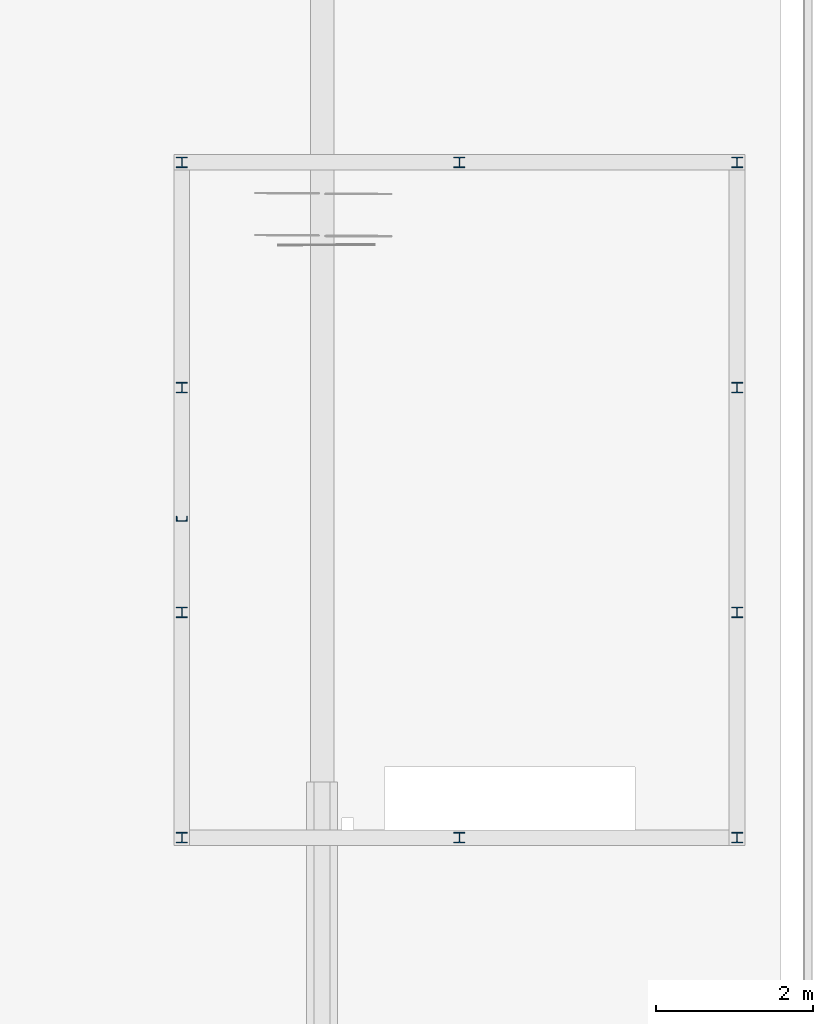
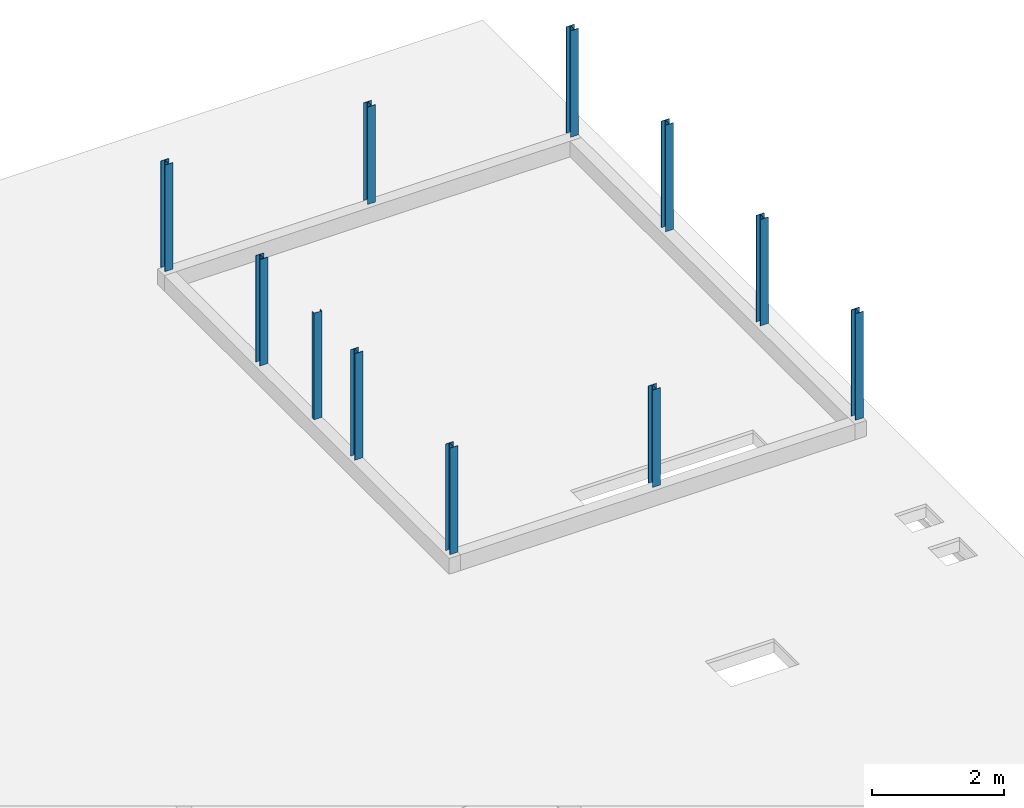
# One storey, part 1 of 9: 11 columns.
"""IFC2X3 building model written with IfcOpenShell, lengths in millimetres."""

from ifc_helpers import new_model, entity, si_unit, converted_unit, derived_unit, direction, frame, frame_2d, origin, place, context, subcontext, project, spatial, polyline, circle_curve, parameter, trimmed, segment, composite_curve, outline, extrude, source, transform, mapped, material, material_list, type_object, type_shapes, element, save


model = new_model("IFC2X3")

# Units and contexts
model_context = context("Model", 3, precision=0.01, world=origin(), true_north=direction((6.12303176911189e-17, 1.0)))
body_context = subcontext(model_context, "Body", "Model", "MODEL_VIEW")
ifc_project = project(units=[si_unit("LENGTHUNIT", "METRE", prefix="MILLI"), si_unit("AREAUNIT", "SQUARE_METRE"), si_unit("VOLUMEUNIT", "CUBIC_METRE"), converted_unit("PLANEANGLEUNIT", "DEGREE", entity("IfcRatioMeasure", 0.0174532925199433), si_unit("PLANEANGLEUNIT", "RADIAN"), dimensions=[0, 0, 0, 0, 0, 0, 0]), si_unit("MASSUNIT", "GRAM", prefix="KILO"), derived_unit("MASSDENSITYUNIT", [(si_unit("MASSUNIT", "GRAM", prefix="KILO"), 1), (si_unit("LENGTHUNIT", "METRE"), -3)]), derived_unit("MOMENTOFINERTIAUNIT", [(si_unit("LENGTHUNIT", "METRE"), 4)]), si_unit("TIMEUNIT", "SECOND"), si_unit("FREQUENCYUNIT", "HERTZ"), si_unit("THERMODYNAMICTEMPERATUREUNIT", "DEGREE_CELSIUS"), derived_unit("THERMALTRANSMITTANCEUNIT", [(si_unit("MASSUNIT", "GRAM", prefix="KILO"), 1), (si_unit("THERMODYNAMICTEMPERATUREUNIT", "KELVIN"), -1), (si_unit("TIMEUNIT", "SECOND"), -3)]), derived_unit("VOLUMETRICFLOWRATEUNIT", [(si_unit("LENGTHUNIT", "METRE"), 3), (si_unit("TIMEUNIT", "SECOND"), -1)]), si_unit("ELECTRICCURRENTUNIT", "AMPERE"), si_unit("ELECTRICVOLTAGEUNIT", "VOLT"), si_unit("POWERUNIT", "WATT"), si_unit("FORCEUNIT", "NEWTON", prefix="KILO"), si_unit("ILLUMINANCEUNIT", "LUX"), si_unit("LUMINOUSFLUXUNIT", "LUMEN"), si_unit("LUMINOUSINTENSITYUNIT", "CANDELA"), derived_unit("USERDEFINED", [(si_unit("MASSUNIT", "GRAM", prefix="KILO"), -1), (si_unit("LENGTHUNIT", "METRE"), -2), (si_unit("TIMEUNIT", "SECOND"), 3), (si_unit("LUMINOUSFLUXUNIT", "LUMEN"), 1)]), derived_unit("LINEARVELOCITYUNIT", [(si_unit("LENGTHUNIT", "METRE"), 1), (si_unit("TIMEUNIT", "SECOND"), -1)]), si_unit("PRESSUREUNIT", "PASCAL"), derived_unit("USERDEFINED", [(si_unit("LENGTHUNIT", "METRE"), -2), (si_unit("MASSUNIT", "GRAM", prefix="KILO"), 1), (si_unit("TIMEUNIT", "SECOND"), -2)]), derived_unit("LINEARFORCEUNIT", [(si_unit("MASSUNIT", "GRAM", prefix="KILO"), 1), (si_unit("LENGTHUNIT", "METRE"), 1), (si_unit("TIMEUNIT", "SECOND"), -2), (si_unit("LENGTHUNIT", "METRE"), -1)]), derived_unit("PLANARFORCEUNIT", [(si_unit("MASSUNIT", "GRAM", prefix="KILO"), 1), (si_unit("LENGTHUNIT", "METRE"), 1), (si_unit("TIMEUNIT", "SECOND"), -2), (si_unit("LENGTHUNIT", "METRE"), -2)])], contexts=[model_context])

# Site, building, storey
site_placement = place(None, origin())
site = spatial("IfcSite", under=ifc_project, at=site_placement, Name="Default", CompositionType="ELEMENT")
building_placement = place(site_placement, origin())
building = spatial("IfcBuilding", under=site, at=building_placement, CompositionType="ELEMENT")
storey_placement = place(building_placement, frame((0.0, 0.0, 7000.0)))
storey = spatial("IfcBuildingStorey", under=building, at=storey_placement, Name="02 tweede verdieping", CompositionType="ELEMENT", Elevation=7000.00000000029)

# Columns
ifc_material_1 = material(Name="h2_staal")
column_type_1 = type_object("IfcColumnType", Name="BERSnl_28_SCO_TLB_kolom hea_gen_ISR:kolom gen hea140", PredefinedType="COLUMN", material=ifc_material_1)
shared_shape_1 = source(origin(), body_context, "Body", "SweptSolid", [
    extrude(outline(composite_curve([segment(polyline([(58.0, -70.0), (66.4999999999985, -70.0)]), True, "CONTINUOUS"), segment(polyline([(66.4999999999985, -70.0), (66.4999999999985, 70.0)]), True, "CONTINUOUS"), segment(polyline([(66.4999999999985, 70.0), (58.0, 70.0)]), True, "CONTINUOUS"), segment(polyline([(58.0, 70.0), (58.0, 14.7500000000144)]), True, "CONTINUOUS"), segment(trimmed(circle_curve(frame_2d((46.0, 14.7500000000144), x_axis=(1.0, 0.0)), 12.0), [parameter(270.0)], [parameter(0.0)], True, "PARAMETER"), False, "CONTINUOUS"), segment(polyline([(46.0, 2.75000000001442), (-46.0, 2.75000000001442)]), True, "CONTINUOUS"), segment(trimmed(circle_curve(frame_2d((-46.0, 14.7500000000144), x_axis=(0.0, -1.0)), 12.0), [parameter(270.0)], [parameter(0.0)], True, "PARAMETER"), False, "CONTINUOUS"), segment(polyline([(-58.0, 14.7500000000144), (-58.0, 70.0)]), True, "CONTINUOUS"), segment(polyline([(-58.0, 70.0), (-66.5000000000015, 70.0)]), True, "CONTINUOUS"), segment(polyline([(-66.5000000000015, 70.0), (-66.5000000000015, -70.0)]), True, "CONTINUOUS"), segment(polyline([(-66.5000000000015, -70.0), (-58.0, -70.0)]), True, "CONTINUOUS"), segment(polyline([(-58.0, -70.0), (-58.0, -14.7500000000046)]), True, "CONTINUOUS"), segment(trimmed(circle_curve(frame_2d((-46.0, -14.7500000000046), x_axis=(-1.0, 0.0)), 12.0), [parameter(269.999999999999)], [parameter(0.0)], True, "PARAMETER"), False, "CONTINUOUS"), segment(polyline([(-46.0, -2.75000000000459), (46.0, -2.75000000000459)]), True, "CONTINUOUS"), segment(trimmed(circle_curve(frame_2d((46.0, -14.7500000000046), x_axis=(0.0, 1.0)), 12.0), [parameter(269.999999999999)], [parameter(0.0)], True, "PARAMETER"), False, "CONTINUOUS"), segment(polyline([(58.0, -14.7500000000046), (58.0, -70.0)]), True, "CONTINUOUS")], self_intersect=False)), frame((0.0, 0.0, 8430.0), z_axis=(0.0, 0.0, 1.0), x_axis=(0.0, -1.0, 0.0)), (0.0, 0.0, 1.0), 1967.0),
])
type_shapes(column_type_1, [shared_shape_1])
for number, where, z_axis, x_axis, name in (
    (1, (34269.4270571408, 31806.2966282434, -7000.0), (0.0, 0.0, 1.0), (-1.0, 0.0, 0.0), "BERSnl_28_SCO_TLB_kolom hea_gen_ISR:kolom gen hea140"),
    (2, (27179.4270571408, 31806.2966282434, -7000.0), (0.0, 0.0, 1.0), (-1.0, 0.0, 0.0), "BERSnl_28_SCO_TLB_kolom hea_gen_ISR:kolom gen hea140"),
    (3, (27179.4270571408, 28929.2966282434, -7000.0), (0.0, 0.0, 1.0), (-1.0, 0.0, 0.0), "BERSnl_28_SCO_TLB_kolom hea_gen_ISR:kolom gen hea140"),
    (4, (27179.4270571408, 26058.2966282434, -7000.0), (0.0, 0.0, 1.0), (-1.0, 0.0, 0.0), "BERSnl_28_SCO_TLB_kolom hea_gen_ISR:kolom gen hea140"),
    (5, (27179.4270571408, 23181.2966282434, -7000.0), (0.0, 0.0, 1.0), (-1.0, 0.0, 0.0), "BERSnl_28_SCO_TLB_kolom hea_gen_ISR:kolom gen hea140"),
    (6, (34269.4270571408, 23181.2966282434, -7000.0), (0.0, 0.0, 1.0), (-1.0, 0.0, 0.0), "BERSnl_28_SCO_TLB_kolom hea_gen_ISR:kolom gen hea140"),
    (7, (34269.4270571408, 26058.2966282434, -7000.0), (0.0, 0.0, 1.0), (-1.0, 0.0, 0.0), "BERSnl_28_SCO_TLB_kolom hea_gen_ISR:kolom gen hea140"),
    (8, (34269.4270571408, 28929.2966282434, -7000.0), (0.0, 0.0, 1.0), (-1.0, 0.0, 0.0), "BERSnl_28_SCO_TLB_kolom hea_gen_ISR:kolom gen hea140"),
):
    element("IfcColumn", number, at=place(storey_placement, frame(where, z_axis=z_axis, x_axis=x_axis)), inside=storey, type_object=column_type_1, Name=name, ObjectType="BERSnl_28_SCO_TLB_kolom hea_gen_ISR:kolom gen hea140", context=body_context, shape_type="MappedRepresentation", body=[
        mapped(shared_shape_1, transform((0.0, 0.0, 0.0), scale=1.0)),
    ])
column_type_2 = type_object("IfcColumnType", Name="BERSnl_28_SCO_TLB_kolom hea_gen_ISR:kolom gen hea140", PredefinedType="COLUMN", material=ifc_material_1)
shared_shape_2 = source(origin(), body_context, "Body", "SweptSolid", [
    extrude(outline(composite_curve([segment(polyline([(58.0, -70.0), (66.4999999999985, -70.0)]), True, "CONTINUOUS"), segment(polyline([(66.4999999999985, -70.0), (66.4999999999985, 70.0)]), True, "CONTINUOUS"), segment(polyline([(66.4999999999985, 70.0), (58.0, 70.0)]), True, "CONTINUOUS"), segment(polyline([(58.0, 70.0), (58.0, 14.7500000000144)]), True, "CONTINUOUS"), segment(trimmed(circle_curve(frame_2d((46.0, 14.7500000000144), x_axis=(1.0, 0.0)), 12.0), [parameter(270.0)], [parameter(0.0)], True, "PARAMETER"), False, "CONTINUOUS"), segment(polyline([(46.0, 2.75000000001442), (-46.0, 2.75000000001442)]), True, "CONTINUOUS"), segment(trimmed(circle_curve(frame_2d((-46.0, 14.7500000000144), x_axis=(0.0, -1.0)), 12.0), [parameter(270.0)], [parameter(0.0)], True, "PARAMETER"), False, "CONTINUOUS"), segment(polyline([(-58.0, 14.7500000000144), (-58.0, 70.0)]), True, "CONTINUOUS"), segment(polyline([(-58.0, 70.0), (-66.5000000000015, 70.0)]), True, "CONTINUOUS"), segment(polyline([(-66.5000000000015, 70.0), (-66.5000000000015, -70.0)]), True, "CONTINUOUS"), segment(polyline([(-66.5000000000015, -70.0), (-58.0, -70.0)]), True, "CONTINUOUS"), segment(polyline([(-58.0, -70.0), (-58.0, -14.7500000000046)]), True, "CONTINUOUS"), segment(trimmed(circle_curve(frame_2d((-46.0, -14.7500000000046), x_axis=(-1.0, 0.0)), 12.0), [parameter(269.999999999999)], [parameter(0.0)], True, "PARAMETER"), False, "CONTINUOUS"), segment(polyline([(-46.0, -2.75000000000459), (46.0, -2.75000000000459)]), True, "CONTINUOUS"), segment(trimmed(circle_curve(frame_2d((46.0, -14.7500000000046), x_axis=(0.0, 1.0)), 12.0), [parameter(269.999999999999)], [parameter(0.0)], True, "PARAMETER"), False, "CONTINUOUS"), segment(polyline([(58.0, -14.7500000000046), (58.0, -70.0)]), True, "CONTINUOUS")], self_intersect=False)), frame((0.0, 0.0, 8430.0), z_axis=(0.0, 0.0, 1.0), x_axis=(0.0, -1.0, 0.0)), (0.0, 0.0, 1.0), 1800.0),
])
type_shapes(column_type_2, [shared_shape_2])
for number, where, z_axis, x_axis, name in (
    (9, (30723.9230974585, 31806.2966282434, -7000.0), (0.0, 0.0, 1.0), (-1.0, 0.0, 0.0), "BERSnl_28_SCO_TLB_kolom hea_gen_ISR:kolom gen hea140"),
    (10, (30724.4270571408, 23181.2966282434, -7000.0), (0.0, 0.0, 1.0), (-1.0, 0.0, 0.0), "BERSnl_28_SCO_TLB_kolom hea_gen_ISR:kolom gen hea140"),
):
    element("IfcColumn", number, at=place(storey_placement, frame(where, z_axis=z_axis, x_axis=x_axis)), inside=storey, type_object=column_type_2, Name=name, ObjectType="BERSnl_28_SCO_TLB_kolom hea_gen_ISR:kolom gen hea140", context=body_context, shape_type="MappedRepresentation", body=[
        mapped(shared_shape_2, transform((0.0, 0.0, 0.0), scale=1.0)),
    ])
ifc_material_2 = material(Name="<Unnamed>")
ifc_material_3 = material(Name="00_Staal_generiek")
ifc_material_list = material_list([ifc_material_2, ifc_material_3])
column_type_3 = type_object("IfcColumnType", Name="BERSnl_28_SCO_TLB_kolom unp_gen_ISR:kolom_gen_UNP140", PredefinedType="COLUMN", material=ifc_material_list)
shared_shape_3 = source(origin(), body_context, "Body", "SweptSolid", [
    extrude(outline(composite_curve([segment(polyline([(-26.8998758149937, -70.0), (33.1001241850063, -70.0)]), True, "CONTINUOUS"), segment(polyline([(33.1001241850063, -70.0), (33.1001241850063, 70.0)]), True, "CONTINUOUS"), segment(polyline([(33.1001241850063, 70.0), (-26.8998758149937, 70.0)]), True, "CONTINUOUS"), segment(polyline([(-26.8998758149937, 70.0), (-26.8998758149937, 66.7383127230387)]), True, "CONTINUOUS"), segment(trimmed(circle_curve(frame_2d((-21.8998758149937, 66.7383127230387), x_axis=(-1.0, 0.0)), 4.99999999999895), [parameter(0.0)], [parameter(85.4200000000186)], True, "PARAMETER"), True, "CONTINUOUS"), segment(polyline([(-22.2991307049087, 61.7542786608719), (16.8986339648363, 58.6142721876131)]), True, "CONTINUOUS"), segment(trimmed(circle_curve(frame_2d((16.1001241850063, 48.6462040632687), x_axis=(0.0798509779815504, 0.996806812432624)), 10.0000000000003), [parameter(274.580000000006)], [parameter(0.0)], True, "PARAMETER"), False, "CONTINUOUS"), segment(polyline([(26.1001241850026, 48.6462040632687), (26.1001241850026, -48.6462040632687)]), True, "CONTINUOUS"), segment(trimmed(circle_curve(frame_2d((16.1001241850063, -48.6462040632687), x_axis=(1.0, 0.0)), 10.0000000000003), [parameter(274.580000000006)], [parameter(0.0)], True, "PARAMETER"), False, "CONTINUOUS"), segment(polyline([(16.8986339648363, -58.6142721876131), (-22.2991307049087, -61.7542786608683)]), True, "CONTINUOUS"), segment(trimmed(circle_curve(frame_2d((-21.8998758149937, -66.7383127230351), x_axis=(-0.0798509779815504, 0.996806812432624)), 4.99999999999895), [parameter(0.0)], [parameter(85.4200000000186)], True, "PARAMETER"), True, "CONTINUOUS"), segment(polyline([(-26.8998758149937, -66.7383127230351), (-26.8998758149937, -70.0)]), True, "CONTINUOUS")], self_intersect=False)), frame((27179.4270571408, 27257.8967524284, 8430.0), z_axis=(0.0, 0.0, 1.0), x_axis=(0.0, -1.0, 0.0)), (0.0, 0.0, 1.0), 1966.99999999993),
])
type_shapes(column_type_3, [shared_shape_3])
column_placement = place(storey_placement, frame((0.0, 0.0, -7000.0)))
element("IfcColumn", 11, at=column_placement, inside=storey, type_object=column_type_3, Name="BERSnl_28_SCO_TLB_kolom unp_gen_ISR:kolom_gen_UNP140", ObjectType="BERSnl_28_SCO_TLB_kolom unp_gen_ISR:kolom_gen_UNP140", context=body_context, shape_type="MappedRepresentation", body=[
    mapped(shared_shape_3, transform((0.0, 0.0, 0.0), scale=1.0)),
])

save(model, "model.ifc")
